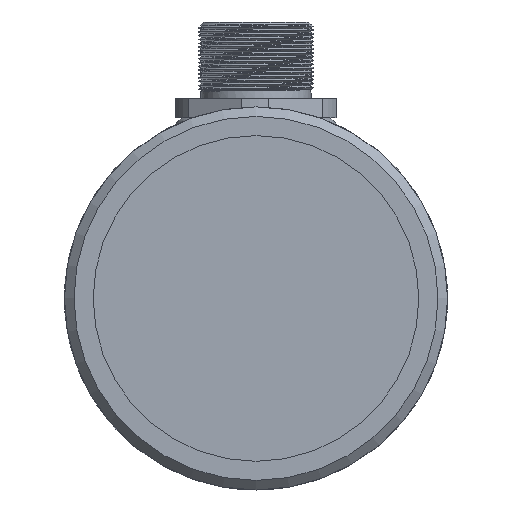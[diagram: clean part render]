
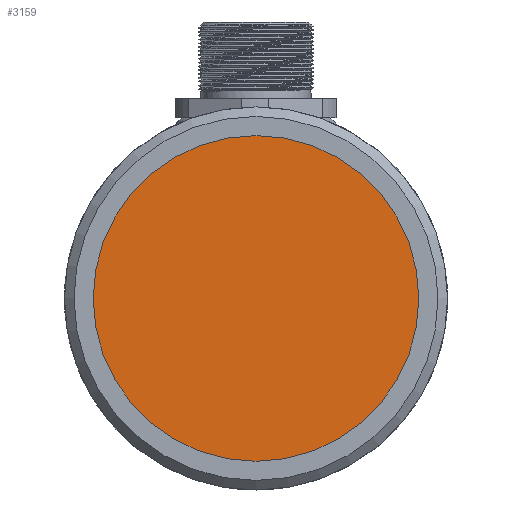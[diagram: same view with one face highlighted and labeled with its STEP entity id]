
A CAD part, left-side view. The second image highlights one B-rep face of the part: STEP entity #3159.
In plain terms, the highlighted planar face has unit normal (-1, 0, 0).
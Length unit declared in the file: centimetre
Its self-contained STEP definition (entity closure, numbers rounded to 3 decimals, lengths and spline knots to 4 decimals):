
#843=CIRCLE('',#3358,1.7);
#938=VERTEX_POINT('',#4111);
#1469=EDGE_CURVE('',#938,#938,#843,.T.);
#1887=ORIENTED_EDGE('',*,*,#1469,.T.);
#2684=EDGE_LOOP('',(#1887));
#2923=FACE_BOUND('',#2684,.T.);
#3159=ADVANCED_FACE('',(#2923),#19211,.T.);
#3358=AXIS2_PLACEMENT_3D('',#4110,#3597,#3598);
#3360=AXIS2_PLACEMENT_3D('',#4114,#3601,$);
#3597=DIRECTION('',(-1.,0.,0.));
#3598=DIRECTION('',(0.,0.,1.7));
#3601=DIRECTION('',(-1.,0.,0.));
#4110=CARTESIAN_POINT('',(0.1,0.,0.));
#4111=CARTESIAN_POINT('',(0.1,0.,1.7));
#4114=CARTESIAN_POINT('',(0.1,0.,0.));
#19211=PLANE('',#3360);
